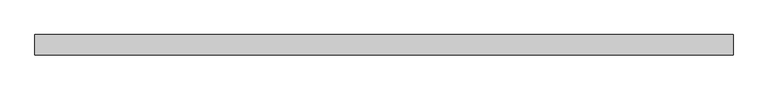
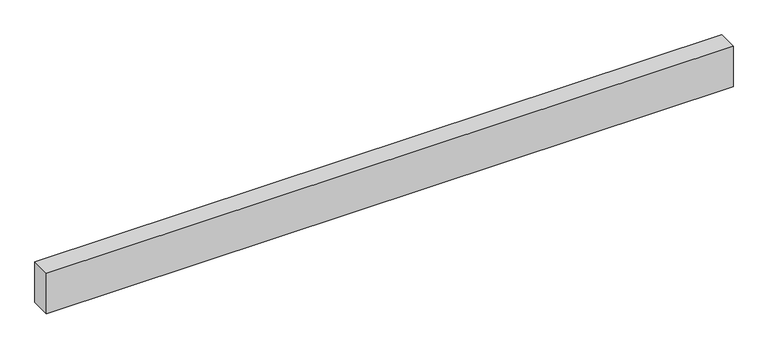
"""IFC4 building model written with IfcOpenShell, lengths in millimetres: proxy geometry."""

from ifc_helpers import new_model, si_unit, frame, origin, place, context, project, spatial, polyline, outline, extrude, source, transform, mapped, element, save


def structural_framing_e8406c5c(model_context):
    return source(origin(), model_context, "Body", "SweptSolid", [
        extrude(outline(polyline([(-2412.75, -70.0), (-2412.75, 70.0), (2412.75, 70.0), (2412.75, -70.0), (-2412.75, -70.0)])), frame((0.0, 0.0, -300.0), z_axis=(0.0, 0.0, 1.0), x_axis=(1.0, 0.0, 0.0)), (0.0, 0.0, 1.0), 300.0),
    ])


if __name__ == "__main__":
    model = new_model("IFC4")
    model_context = context("Model", 3, world=origin())
    ifc_project = project(units=[si_unit("LENGTHUNIT", "METRE", prefix="MILLI")], contexts=[model_context])
    site = spatial("IfcSite", under=ifc_project)
    building = spatial("IfcBuilding", under=site)
    placement = place(None, origin())
    structural_framing_shape = structural_framing_e8406c5c(model_context)
    element("IfcBuildingElementProxy", 1, Name="Structural Framing", at=placement, inside=building, context=model_context, shape_type="MappedRepresentation", body=[
        mapped(structural_framing_shape, transform((0.0, 0.0, 0.0), x_axis=(1.0, 0.0, 0.0), y_axis=(0.0, 1.0, 0.0), z_axis=(0.0, 0.0, 1.0))),
    ])
    save(model, "model.ifc")
